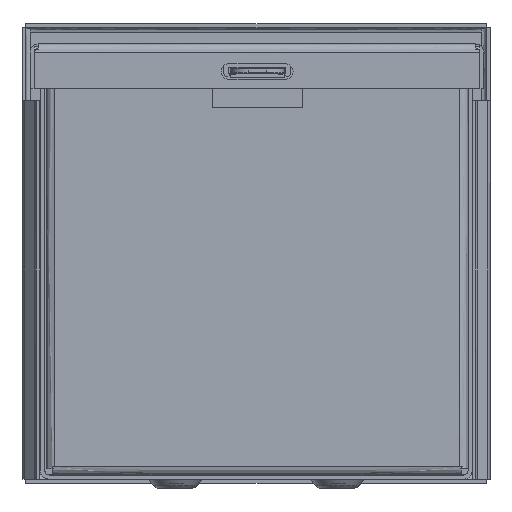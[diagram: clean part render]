
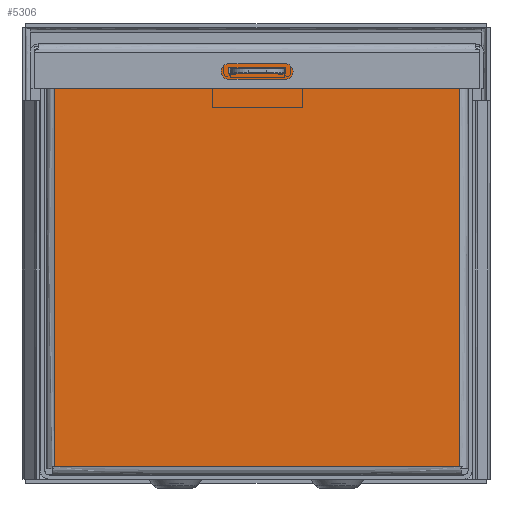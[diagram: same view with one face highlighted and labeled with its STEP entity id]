
A CAD part, front view. The second image highlights one B-rep face of the part: STEP entity #5306.
In plain terms, the highlighted free-form (B-spline) face has degree [1, 1] with [2, 2] control points.
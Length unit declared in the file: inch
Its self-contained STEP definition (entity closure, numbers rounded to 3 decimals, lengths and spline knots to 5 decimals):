
#4486=CARTESIAN_POINT('V69',(2.4845,-0.055,
   5.5205));
#4487=VERTEX_POINT('V69',#4486);
#4495=CARTESIAN_POINT('V72',(3.2655,-0.055,
   5.5205));
#4496=VERTEX_POINT('V72',#4495);
#4497=CARTESIAN_POINT('E91',(3.2655,-0.055,
   5.5205));
#4498=CARTESIAN_POINT('E91',(2.4845,-0.055,
   5.5205));
#4499=QUASI_UNIFORM_CURVE('E91',1,(#4497,#4498),.POLYLINE_FORM.,.F.,
   .U.);
#4500=EDGE_CURVE('E91',#4496,#4487,#4499,.T.);
#4523=CARTESIAN_POINT('V71',(3.2655,-0.055,
   5.6055));
#4524=VERTEX_POINT('V71',#4523);
#4525=CARTESIAN_POINT('E90',(3.2655,-0.055,
   5.6055));
#4526=CARTESIAN_POINT('E90',(3.2655,-0.055,
   5.5205));
#4527=QUASI_UNIFORM_CURVE('E90',1,(#4525,#4526),.POLYLINE_FORM.,.F.,
   .U.);
#4528=EDGE_CURVE('E90',#4524,#4496,#4527,.T.);
#4551=CARTESIAN_POINT('V70',(2.4845,-0.055,
   5.6055));
#4552=VERTEX_POINT('V70',#4551);
#4553=CARTESIAN_POINT('E89',(2.4845,-0.055,
   5.6055));
#4554=CARTESIAN_POINT('E89',(3.2655,-0.055,
   5.6055));
#4555=QUASI_UNIFORM_CURVE('E89',1,(#4553,#4554),.POLYLINE_FORM.,.F.,
   .U.);
#4556=EDGE_CURVE('E89',#4552,#4524,#4555,.T.);
#4579=CARTESIAN_POINT('E88',(2.4845,-0.055,
   5.5205));
#4580=CARTESIAN_POINT('E88',(2.4845,-0.055,
   5.6055));
#4581=QUASI_UNIFORM_CURVE('E88',1,(#4579,#4580),.POLYLINE_FORM.,.F.,
   .U.);
#4582=EDGE_CURVE('E88',#4487,#4552,#4581,.T.);
#4932=CARTESIAN_POINT('V56',(0.445,-0.055,
   5.77));
#4933=VERTEX_POINT('V56',#4932);
#4934=CARTESIAN_POINT('V68',(0.445,-0.055,
   5.81));
#4935=VERTEX_POINT('V68',#4934);
#4936=CARTESIAN_POINT('E86',(0.445,-0.055,
   5.77));
#4937=CARTESIAN_POINT('E86',(0.445,-0.055,
   5.81));
#4938=QUASI_UNIFORM_CURVE('E86',1,(#4936,#4937),.POLYLINE_FORM.,.F.,
   .U.);
#4939=EDGE_CURVE('E86',#4933,#4935,#4938,.T.);
#5107=CARTESIAN_POINT('V49',(0.06,-0.055,
   5.81));
#5108=VERTEX_POINT('V49',#5107);
#5122=CARTESIAN_POINT('E87',(0.445,-0.055,
   5.81));
#5123=CARTESIAN_POINT('E87',(0.06,-0.055,
   5.81));
#5124=QUASI_UNIFORM_CURVE('E87',1,(#5122,#5123),.POLYLINE_FORM.,.F.,
   .U.);
#5125=EDGE_CURVE('E87',#4935,#5108,#5124,.T.);
#5158=CARTESIAN_POINT('V41',(0.06,-0.055,
   0.06));
#5159=VERTEX_POINT('V41',#5158);
#5241=CARTESIAN_POINT('E61',(0.06,-0.055,
   0.06));
#5242=CARTESIAN_POINT('E61',(0.06,-0.055,
   5.81));
#5243=QUASI_UNIFORM_CURVE('E61',1,(#5241,#5242),.POLYLINE_FORM.,.F.,
   .U.);
#5244=EDGE_CURVE('E61',#5159,#5108,#5243,.T.);
#5257=CARTESIAN_POINT('F26',(5.69,-0.055,
   0.06));
#5258=CARTESIAN_POINT('F26',(5.69,-0.055,
   5.81));
#5259=CARTESIAN_POINT('F26',(0.06,-0.055,
   0.06));
#5260=CARTESIAN_POINT('F26',(0.06,-0.055,
   5.81));
#5261=B_SPLINE_SURFACE_WITH_KNOTS('F26',1,1,((#5257,#5259),(#5258,
   #5260)),.PLANE_SURF.,.F.,.F.,.U.,(2,2),(2,2),(
   0.00021,0.99979),(0.00021,
   0.99979),.UNSPECIFIED.);
#5262=ORIENTED_EDGE('E61',*,*,#5244,.F.);
#5263=CARTESIAN_POINT('V40',(5.69,-0.055,
   0.06));
#5264=VERTEX_POINT('V40',#5263);
#5265=CARTESIAN_POINT('E51',(5.69,-0.055,
   0.06));
#5266=CARTESIAN_POINT('E51',(0.06,-0.055,
   0.06));
#5267=QUASI_UNIFORM_CURVE('E51',1,(#5265,#5266),.POLYLINE_FORM.,.F.,
   .U.);
#5268=EDGE_CURVE('E51',#5264,#5159,#5267,.T.);
#5269=ORIENTED_EDGE('E51',*,*,#5268,.F.);
#5270=CARTESIAN_POINT('V47',(5.69,-0.055,
   5.81));
#5271=VERTEX_POINT('V47',#5270);
#5272=CARTESIAN_POINT('E58',(5.69,-0.055,
   5.81));
#5273=CARTESIAN_POINT('E58',(5.69,-0.055,
   0.06));
#5274=QUASI_UNIFORM_CURVE('E58',1,(#5272,#5273),.POLYLINE_FORM.,.F.,
   .U.);
#5275=EDGE_CURVE('E58',#5271,#5264,#5274,.T.);
#5276=ORIENTED_EDGE('E58',*,*,#5275,.F.);
#5277=CARTESIAN_POINT('V67',(5.305,-0.055,
   5.81));
#5278=VERTEX_POINT('V67',#5277);
#5279=CARTESIAN_POINT('E84',(5.69,-0.055,
   5.81));
#5280=CARTESIAN_POINT('E84',(5.305,-0.055,
   5.81));
#5281=QUASI_UNIFORM_CURVE('E84',1,(#5279,#5280),.POLYLINE_FORM.,.F.,
   .U.);
#5282=EDGE_CURVE('E84',#5271,#5278,#5281,.T.);
#5283=ORIENTED_EDGE('E84',*,*,#5282,.T.);
#5284=CARTESIAN_POINT('V53',(5.305,-0.055,
   5.77));
#5285=VERTEX_POINT('V53',#5284);
#5286=CARTESIAN_POINT('E85',(5.305,-0.055,
   5.81));
#5287=CARTESIAN_POINT('E85',(5.305,-0.055,
   5.77));
#5288=QUASI_UNIFORM_CURVE('E85',1,(#5286,#5287),.POLYLINE_FORM.,.F.,
   .U.);
#5289=EDGE_CURVE('E85',#5278,#5285,#5288,.T.);
#5290=ORIENTED_EDGE('E85',*,*,#5289,.T.);
#5291=CARTESIAN_POINT('E69',(0.445,-0.055,
   5.77));
#5292=CARTESIAN_POINT('E69',(5.305,-0.055,
   5.77));
#5293=QUASI_UNIFORM_CURVE('E69',1,(#5291,#5292),.POLYLINE_FORM.,.F.,
   .U.);
#5294=EDGE_CURVE('E69',#4933,#5285,#5293,.T.);
#5295=ORIENTED_EDGE('E69',*,*,#5294,.F.);
#5296=ORIENTED_EDGE('E86',*,*,#4939,.T.);
#5297=ORIENTED_EDGE('E87',*,*,#5125,.T.);
#5298=EDGE_LOOP('F26',(#5262,#5269,#5276,#5283,#5290,#5295,#5296,
   #5297));
#5299=FACE_OUTER_BOUND('F26',#5298,.T.);
#5300=ORIENTED_EDGE('E88',*,*,#4582,.T.);
#5301=ORIENTED_EDGE('E89',*,*,#4556,.T.);
#5302=ORIENTED_EDGE('E90',*,*,#4528,.T.);
#5303=ORIENTED_EDGE('E91',*,*,#4500,.T.);
#5304=EDGE_LOOP('F26',(#5300,#5301,#5302,#5303));
#5305=FACE_BOUND('F26',#5304,.T.);
#5306=ADVANCED_FACE('F26',(#5299,#5305),#5261,.T.);
